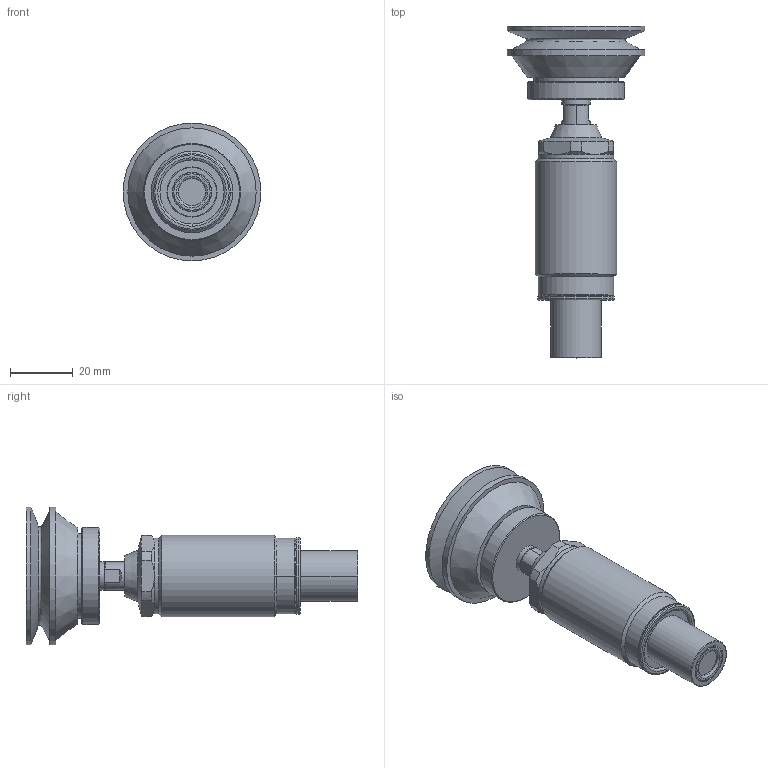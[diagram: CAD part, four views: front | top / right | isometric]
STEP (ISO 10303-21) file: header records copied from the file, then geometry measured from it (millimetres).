
FILE_DESCRIPTION(/* description */ (''),/* implementation_level */ '2;1');
FILE_NAME(/* name */ 'TNL26-Q-D加长吸附型.stp',/* time_stamp */ '2025-01-09T11:04:43+08:00',/* author */ (''),/* organization */ (''),/* preprocessor_version */ 'ST-DEVELOPER v16.7',/* originating_system */ 'SIEMENS PLM Software NX 12.0',/* authorisation */ '');
FILE_SCHEMA (('AUTOMOTIVE_DESIGN { 1 0 10303 214 3 1 1 1 }'));
Length unit declared in the file: millimetre
Products named in the file (9): TNL26-Q-09; TNL26-Q-08; TNL26-Q-07; TNL26-Q-06; TNL26-Q-5958; TNL26-Q-4959; TNL26-Q-2960; TNL26-Q-1961; TNL26-Q-D加长吸附型_stp
Assembly tree (8 placements, depth 2):
  TNL26-Q-D加长吸附型_stp
    TNL26-Q-1961
    TNL26-Q-2960
    TNL26-Q-4959
    TNL26-Q-5958
    TNL26-Q-06
    TNL26-Q-07
    TNL26-Q-08
    TNL26-Q-09
Bounding box: 44 x 106 x 44 mm (x, y, z)
Volume: 45730.3 mm3; surface area: 20042.4 mm2
Topology: 8 solids, 8 shells, 156 faces, 331 edges, 200 vertices
Faces by surface type: plane 53, cylinder 42, torus 35, cone 25, sphere 1
Full cylindrical faces by diameter (mm): 6 x1, 9 x1, 15.7 x1, 16 x1, 23 x1, 24.2 x1, 26 x1, 27 x1, 27.5 x1, 31 x1, 44 x2
Entity records: 4347 total; most frequent: DIRECTION 798, CARTESIAN_POINT 788, ORIENTED_EDGE 592, AXIS2_PLACEMENT_3D 361, EDGE_CURVE 296, EDGE_LOOP 205, CIRCLE 196, VERTEX_POINT 195
